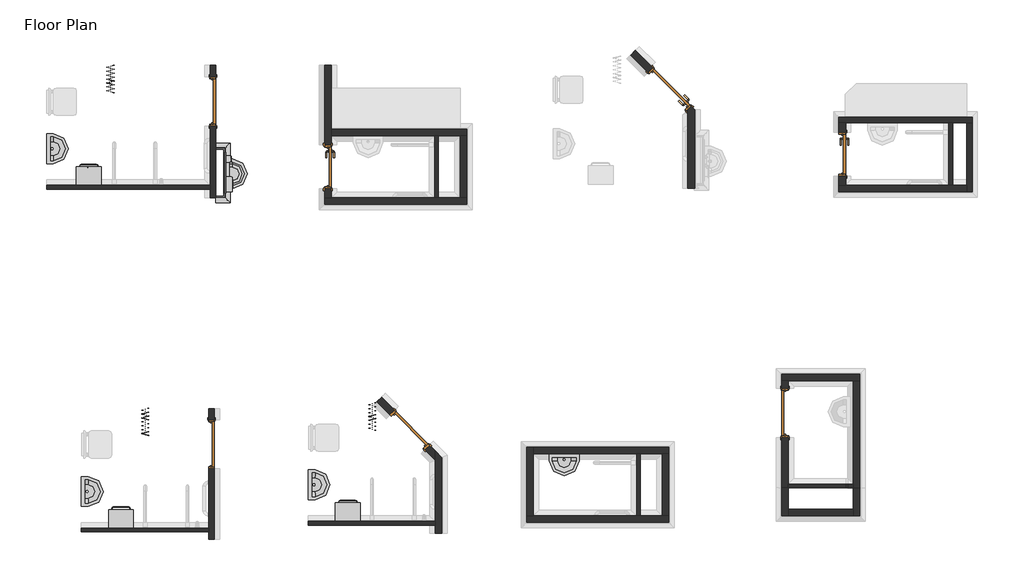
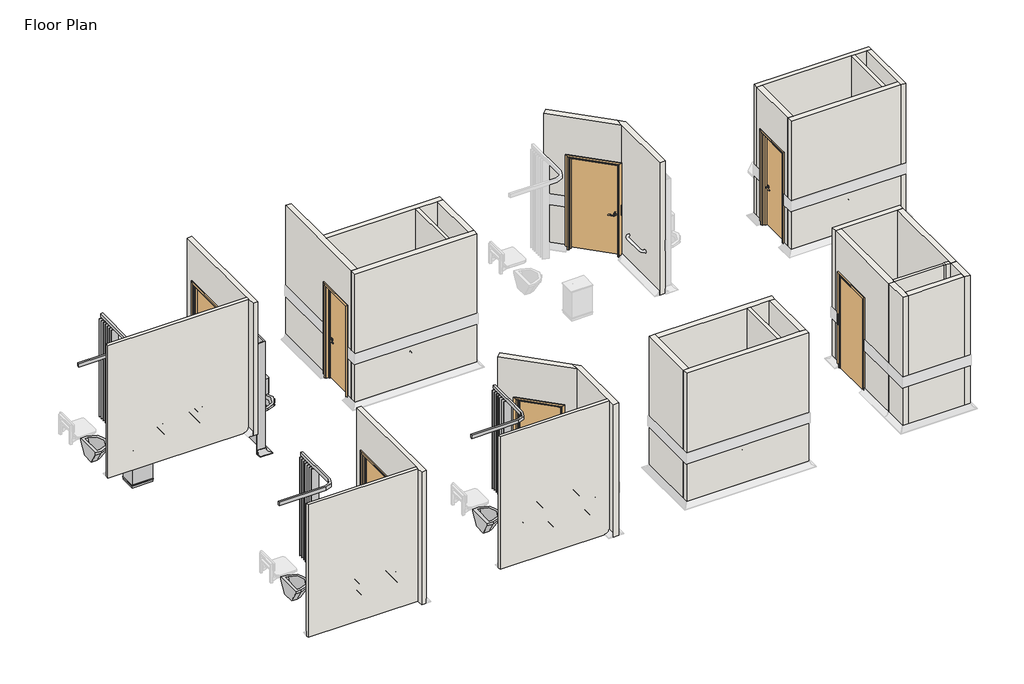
# One storey, part 1 of 4: 33 walls, 9 furniture elements, 7 doors, 6 flow terminals.
"""IFC4 building model written with IfcOpenShell, lengths in millimetres."""

from ifc_helpers import new_model, si_unit, origin, place, context, project, spatial, faceted_brep, transform, mapped, element, save
from components import doors_concept_intsgl_910x2110mm_f82baad5, doors_concept_intsgl_910x2110mm_32050250, doors_concept_intsgl_910x2110mm_9e80112f, doors_intsgl_1_1010x2110mm_0e4fc7ca, doors_intsgl_1_810x2110mm_42a51698, flow_terminal_1693ed64, flow_terminal_004a381b, flow_terminal_30861e1c, furniture_166ce8d1, furniture_26d36cfe, furniture_c6a9ce10, furniture_a9c8da33, furniture_eb258ce7

model = new_model("IFC4")

# Units and contexts
model_context = context("Model", 3, world=origin())
ifc_project = project(units=[si_unit("LENGTHUNIT", "METRE", prefix="MILLI")], contexts=[model_context])

# Site, building, storey
site = spatial("IfcSite", under=ifc_project)
building = spatial("IfcBuilding", under=site)
storey = spatial("IfcBuildingStorey", under=building, Name="Floor Plan", Elevation=0.0)

# Doors
placement = place(None, origin())
doors_concept_intsgl_910x2110mm_shape = doors_concept_intsgl_910x2110mm_f82baad5(model_context)
element("IfcDoor", 1, ObjectType="Doors_Concept_IntSgl : 910x2110mm", at=placement, inside=storey, context=model_context, shape_type="MappedRepresentation", body=[
    mapped(doors_concept_intsgl_910x2110mm_shape, transform((41275.3426729, -16264.8718225, 0.0), x_axis=(0.0, 1.0, 0.0), y_axis=(-1.0, 0.0, 0.0), z_axis=(0.0, 0.0, 1.0))),
])
element("IfcDoor", 2, ObjectType="Doors_Concept_IntSgl : 910x2110mm", at=placement, inside=storey, context=model_context, shape_type="MappedRepresentation", body=[
    mapped(doors_concept_intsgl_910x2110mm_shape, transform((41296.4211783, -9951.8684808, 0.0), x_axis=(0.0, 1.0, 0.0), y_axis=(-1.0, 0.0, 0.0), z_axis=(0.0, 0.0, 1.0))),
])
doors_concept_intsgl_910x2110mm_2_shape = doors_concept_intsgl_910x2110mm_32050250(model_context)
element("IfcDoor", 3, ObjectType="Doors_Concept_IntSgl : 910x2110mm", at=placement, inside=storey, context=model_context, shape_type="MappedRepresentation", body=[
    mapped(doors_concept_intsgl_910x2110mm_2_shape, transform((51833.4278474, -15688.6150189, 0.0), x_axis=(0.0, 1.0, 0.0), y_axis=(-1.0, 0.0, 0.0), z_axis=(0.0, 0.0, 1.0))),
])
doors_concept_intsgl_910x2110mm_3_shape = doors_concept_intsgl_910x2110mm_9e80112f(model_context)
element("IfcDoor", 4, ObjectType="Doors_Concept_IntSgl : 910x2110mm", at=placement, inside=storey, context=model_context, shape_type="MappedRepresentation", body=[
    mapped(doors_concept_intsgl_910x2110mm_3_shape, transform((44922.5727366, -16003.5844721, 0.0), x_axis=(-0.7071067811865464, 0.7071067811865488, 0.0), y_axis=(-0.7071067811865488, -0.7071067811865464, 0.0), z_axis=(0.0, 0.0, 1.0))),
])
doors_intsgl_1_1010x2110mm_shape = doors_intsgl_1_1010x2110mm_0e4fc7ca(model_context)
element("IfcDoor", 5, ObjectType="Doors_IntSgl_1 : 1010x2110mm", at=placement, inside=storey, context=model_context, shape_type="MappedRepresentation", body=[
    mapped(doors_intsgl_1_1010x2110mm_shape, transform((49710.3774664, -9727.4978763, 0.0), x_axis=(-0.7071067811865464, 0.7071067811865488, 0.0), y_axis=(-0.7071067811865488, -0.7071067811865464, 0.0), z_axis=(0.0, 0.0, 1.0))),
])
doors_intsgl_1_810x2110mm_shape = doors_intsgl_1_810x2110mm_42a51698(model_context)
element("IfcDoor", 6, ObjectType="Doors_IntSgl_1 : 810x2110mm", at=placement, inside=storey, context=model_context, shape_type="MappedRepresentation", body=[
    mapped(doors_intsgl_1_810x2110mm_shape, transform((43414.71766, -11156.4934808, 0.0), x_axis=(0.0, -1.0, 0.0), y_axis=(1.0, 0.0, 0.0), z_axis=(0.0, 0.0, 1.0))),
])
element("IfcDoor", 7, ObjectType="Doors_IntSgl_1 : 810x2110mm", at=placement, inside=storey, context=model_context, shape_type="MappedRepresentation", body=[
    mapped(doors_intsgl_1_810x2110mm_shape, transform((52889.0445525, -10922.9934808, 0.0), x_axis=(0.0, -1.0, 0.0), y_axis=(1.0, 0.0, 0.0), z_axis=(0.0, 0.0, 1.0))),
])

# Flow terminals
flow_terminal_shape = flow_terminal_1693ed64(model_context)
element("IfcFlowTerminal", 8, ObjectType="BHMS_wash basin-LOD01 : BHMS_wash basin-LOD01", at=placement, inside=storey, context=model_context, shape_type="MappedRepresentation", body=[
    mapped(flow_terminal_shape, transform((41532.4211783, -11566.1184808, 237.6002267), x_axis=(0.0, 1.0, 0.0), y_axis=(-1.0, 0.0, 0.0), z_axis=(0.0, 0.0, 1.0))),
])
flow_terminal_2_shape = flow_terminal_004a381b(model_context)
element("IfcFlowTerminal", 9, ObjectType="BIMHealth-Taps_IPS-LOD2A-v1 : BIMHealth-Taps_IPS-LOD2A-v1", at=placement, inside=storey, context=model_context, shape_type="MappedRepresentation", body=[
    mapped(flow_terminal_2_shape, transform((41597.3640242, -11160.5182464, -462.3997733), x_axis=(0.0, -1.0, 0.0), y_axis=(1.0, 0.0, 0.0), z_axis=(0.0, 0.0, 1.0))),
])
flow_terminal_3_shape = flow_terminal_30861e1c(model_context)
element("IfcFlowTerminal", 10, ObjectType="BIMHealth-Wash_basin_Doc_M-LOD2A-v1 : BIMHealth-Wash_basin_Doc_M-LOD2A-v1", at=placement, inside=storey, context=model_context, shape_type="MappedRepresentation", body=[
    mapped(flow_terminal_3_shape, transform((43053.6832264, -17285.4449619, 450.0), x_axis=(0.0, 1.0, 0.0), y_axis=(-1.0, 0.0, 0.0), z_axis=(0.0, 0.0, 1.0))),
])
element("IfcFlowTerminal", 11, ObjectType="BIMHealth-Wash_basin_Doc_M-LOD2A-v1 : BIMHealth-Wash_basin_Doc_M-LOD2A-v1", at=placement, inside=storey, context=model_context, shape_type="MappedRepresentation", body=[
    mapped(flow_terminal_3_shape, transform((38875.3426729, -17409.8718225, 450.0), x_axis=(0.0, 1.0, 0.0), y_axis=(-1.0, 0.0, 0.0), z_axis=(0.0, 0.0, 1.0))),
])
element("IfcFlowTerminal", 12, ObjectType="BIMHealth-Wash_basin_Doc_M-LOD2A-v1 : BIMHealth-Wash_basin_Doc_M-LOD2A-v1", at=placement, inside=storey, context=model_context, shape_type="MappedRepresentation", body=[
    mapped(flow_terminal_3_shape, transform((47492.8138428, -16442.8650189, 450.0), x_axis=(1.0, 0.0, 0.0), y_axis=(0.0, 1.0, 0.0), z_axis=(0.0, 0.0, 1.0))),
])
element("IfcFlowTerminal", 13, ObjectType="BIMHealth-Wash_basin_Doc_M-LOD2A-v1 : BIMHealth-Wash_basin_Doc_M-LOD2A-v1", at=placement, inside=storey, context=model_context, shape_type="MappedRepresentation", body=[
    mapped(flow_terminal_3_shape, transform((38233.9211783, -11096.8684808, -12.3997733), x_axis=(0.0, 1.0, 0.0), y_axis=(-1.0, 0.0, 0.0), z_axis=(0.0, 0.0, 1.0))),
])

# Furniture
furniture_shape = furniture_166ce8d1(model_context)
element("IfcFurniture", 14, ObjectType="BIMHealth-Paper_Towel_Dispenser-LOD2A-v1 : BIMHealth-Paper_Towel_Dispenser-LOD2A-v1", at=placement, inside=storey, context=model_context, shape_type="MappedRepresentation", body=[
    mapped(furniture_shape, transform((41532.4211783, -11617.0382414, -442.3997733), x_axis=(0.0, 1.0, 0.0), y_axis=(-1.0, 0.0, 0.0), z_axis=(0.0, 0.0, 1.0))),
])
furniture_2_shape = furniture_26d36cfe(model_context)
element("IfcFurniture", 15, ObjectType="BIMHealth-Soap_Dispenser-LOD2A-v1 : BIMHealth-Soap_Dispenser-LOD2A-v1", at=placement, inside=storey, context=model_context, shape_type="MappedRepresentation", body=[
    mapped(furniture_2_shape, transform((41532.4211783, -11069.0792802, -312.3997733), x_axis=(0.0, 1.0, 0.0), y_axis=(-1.0, 0.0, 0.0), z_axis=(0.0, 0.0, 1.0))),
])
furniture_3_shape = furniture_c6a9ce10(model_context)
element("IfcFurniture", 16, ObjectType="BIMHealth-Bin_Clinical_Foot_Operated-LOD2A-v1 : BIMHealth-Bin_Clinical_Foot_Operated-LOD2A-v1", at=placement, inside=storey, context=model_context, shape_type="MappedRepresentation", body=[
    mapped(furniture_3_shape, transform((44003.6832264, -17675.4449619, 0.0), x_axis=(-1.0, 0.0, 0.0), y_axis=(0.0, -1.0, 0.0), z_axis=(0.0, 0.0, 1.0))),
])
element("IfcFurniture", 17, ObjectType="BIMHealth-Bin_Clinical_Foot_Operated-LOD2A-v1 : BIMHealth-Bin_Clinical_Foot_Operated-LOD2A-v1", at=placement, inside=storey, context=model_context, shape_type="MappedRepresentation", body=[
    mapped(furniture_3_shape, transform((39825.3426729, -17799.8718225, 0.0), x_axis=(-1.0, 0.0, 0.0), y_axis=(0.0, -1.0, 0.0), z_axis=(0.0, 0.0, 1.0))),
])
element("IfcFurniture", 18, ObjectType="BIMHealth-Bin_Clinical_Foot_Operated-LOD2A-v1 : BIMHealth-Bin_Clinical_Foot_Operated-LOD2A-v1", at=placement, inside=storey, context=model_context, shape_type="MappedRepresentation", body=[
    mapped(furniture_3_shape, transform((39233.9211783, -11486.8684808, -462.3997733), x_axis=(-1.0, 0.0, 0.0), y_axis=(0.0, -1.0, 0.0), z_axis=(0.0, 0.0, 1.0))),
])
furniture_4_shape = furniture_a9c8da33(model_context)
element("IfcFurniture", 19, ObjectType="BIMHealth-Curtain_Doc_M-LOD2A-v1 : BIMHealth-Curtain_Doc_M-LOD2A-v1", at=placement, inside=storey, context=model_context, shape_type="MappedRepresentation", body=[
    mapped(furniture_4_shape, transform((44253.6832264, -15501.9449619, 0.0), x_axis=(0.0, -1.0, 0.0), y_axis=(1.0, 0.0, 0.0), z_axis=(0.0, 0.0, 1.0))),
])
element("IfcFurniture", 20, ObjectType="BIMHealth-Curtain_Doc_M-LOD2A-v1 : BIMHealth-Curtain_Doc_M-LOD2A-v1", at=placement, inside=storey, context=model_context, shape_type="MappedRepresentation", body=[
    mapped(furniture_4_shape, transform((40075.3426729, -15599.8718225, 0.0), x_axis=(0.0, -1.0, 0.0), y_axis=(1.0, 0.0, 0.0), z_axis=(0.0, 0.0, 1.0))),
])
element("IfcFurniture", 21, ObjectType="BIMHealth-Curtain_Doc_M-LOD2A-v1 : BIMHealth-Curtain_Doc_M-LOD2A-v1", at=placement, inside=storey, context=model_context, shape_type="MappedRepresentation", body=[
    mapped(furniture_4_shape, transform((39433.9211783, -9286.8684808, -462.3997733), x_axis=(0.0, -1.0, 0.0), y_axis=(1.0, 0.0, 0.0), z_axis=(0.0, 0.0, 1.0))),
])
furniture_5_shape = furniture_eb258ce7(model_context)
element("IfcFurniture", 22, ObjectType="BIMHealth-Washstation-LOD2A-v2 : BIMHealth-Washstation-LOD2A-v1 2", at=placement, inside=storey, context=model_context, shape_type="MappedRepresentation", body=[
    mapped(furniture_5_shape, transform((41346.4211783, -10816.1184808, -462.3997733), x_axis=(0.0, 1.0, 0.0), y_axis=(-1.0, 0.0, 0.0), z_axis=(0.0, 0.0, 1.0))),
])

# Walls
element("IfcWall", 23, ObjectType="BHMS05-FR30_ Partn70 plastic int-vnyl sktg-1 bmp rail", at=placement, inside=storey, context=model_context, shape_type="Brep", body=[
    faceted_brep([(51772.6778474, -17067.8650189, 3000.0), (51772.6778474, -15093.6150189, 3000.0), (51772.6778474, -15093.6150189, 1200.0), (51772.6778474, -15093.6150189, 965.0), (51772.6778474, -15093.6150189, 100.0), (51772.6778474, -15093.6150189, 0.0), (51772.6778474, -15233.6150189, 0.0), (51772.6778474, -15233.6150189, 100.0), (51772.6778474, -15233.6150189, 965.0), (51772.6778474, -15233.6150189, 1200.0), (51772.6778474, -15233.6150189, 2110.0), (51772.6778474, -16143.6150189, 2110.0), (51772.6778474, -16143.6150189, 1200.0), (51772.6778474, -16143.6150189, 965.0), (51772.6778474, -16143.6150189, 100.0), (51772.6778474, -16143.6150189, 0.0), (51772.6778474, -17067.8650189, 0.0), (51772.6778474, -17067.8650189, 100.0), (51772.6778474, -17067.8650189, 965.0), (51772.6778474, -17067.8650189, 1200.0), (51894.1778474, -17067.8650189, 3000.0), (51894.1778474, -17067.8650189, 100.0), (51894.1778474, -17067.8650189, 0.0), (51894.1778474, -17067.1150189, 0.0), (51894.1778474, -16998.6150189, 0.0), (51894.1778474, -16143.6150189, 0.0), (51894.1778474, -16143.6150189, 100.0), (51894.1778474, -16143.6150189, 2110.0), (51894.1778474, -15233.6150189, 2110.0), (51894.1778474, -15233.6150189, 100.0), (51894.1778474, -15233.6150189, 0.0), (51894.1778474, -15093.6150189, 0.0), (51894.1778474, -15093.6150189, 3000.0), (51894.1778474, -16998.6150189, 3000.0), (51894.1778474, -17067.1150189, 3000.0)], [[[0, 1, 2, 3, 4, 5, 6, 7, 8, 9, 10, 11, 12, 13, 14, 15, 16, 17, 18, 19]], [[20, 21, 22, 23, 24, 25, 26, 27, 28, 29, 30, 31, 32, 33, 34]], [[6, 5, 31, 30]], [[22, 16, 15, 25, 24, 23]], [[22, 21, 20, 0, 19, 18, 17, 16]], [[1, 0, 20, 34, 33, 32]], [[28, 10, 9, 8, 7, 6, 30, 29]], [[10, 28, 27, 11]], [[11, 27, 26, 25, 15, 14, 13, 12]], [[1, 32, 31, 5, 4, 3, 2]]]),
])
element("IfcWall", 24, ObjectType="BHMS05-FR30_ Partn70 plastic int-vnyl sktg-1 bmp rail", at=placement, inside=storey, context=model_context, shape_type="Brep", body=[
    faceted_brep([(51772.6778474, -15093.6150189, 0.0), (51894.1778474, -15093.6150189, 0.0), (53094.1778474, -15093.6150189, 0.0), (53215.6778474, -15093.6150189, 0.0), (53215.6778474, -15093.6150189, 100.0), (53215.6778474, -15093.6150189, 965.0), (53215.6778474, -15093.6150189, 1200.0), (53215.6778474, -15093.6150189, 3000.0), (53094.1778474, -15093.6150189, 3000.0), (51894.1778474, -15093.6150189, 3000.0), (51772.6778474, -15093.6150189, 3000.0), (51772.6778474, -15093.6150189, 1200.0), (51772.6778474, -15093.6150189, 965.0), (51772.6778474, -15093.6150189, 100.0), (53215.6778474, -14972.1150189, 0.0), (51772.6778474, -14972.1150189, 0.0), (51772.6778474, -14972.1150189, 100.0), (51772.6778474, -14972.1150189, 965.0), (51772.6778474, -14972.1150189, 1200.0), (51772.6778474, -14972.1150189, 3000.0), (53215.6778474, -14972.1150189, 3000.0), (53215.6778474, -14972.1150189, 1200.0), (53215.6778474, -14972.1150189, 965.0), (53215.6778474, -14972.1150189, 100.0)], [[[0, 1, 2, 3, 4, 5, 6, 7, 8, 9, 10, 11, 12, 13]], [[14, 15, 16, 17, 18, 19, 20, 21, 22, 23]], [[3, 2, 1, 0, 15, 14]], [[10, 9, 8, 7, 20, 19]], [[3, 14, 23, 22, 21, 20, 7, 6, 5, 4]], [[10, 19, 18, 17, 16, 15, 0, 13, 12, 11]]]),
])
element("IfcWall", 25, ObjectType="BHMS02A- Partn50-vinyl sktg1 side", at=placement, inside=storey, context=model_context, shape_type="Brep", body=[
    faceted_brep([(53094.1778474, -16998.6150189, 0.0), (52993.4278474, -16998.6150189, 0.0), (52993.4278474, -16998.6150189, 100.0), (52993.4278474, -16998.6150189, 3000.0), (53094.1778474, -16998.6150189, 3000.0), (53094.1778474, -16998.6150189, 100.0), (53094.1778474, -17067.1150189, 0.0), (53094.1778474, -17067.1150189, 3000.0), (52993.4278474, -17067.1150189, 3000.0), (52993.4278474, -17067.1150189, 0.0)], [[[0, 1, 2, 3, 4, 5]], [[6, 7, 8, 9]], [[1, 0, 6, 9]], [[3, 2, 1, 9, 8]], [[4, 3, 8, 7]], [[0, 5, 4, 7, 6]]]),
])
element("IfcWall", 26, ObjectType="BHMS05-FR30_ Partn70 plastic-ext vnyl sktg-1 bmp rail", at=placement, inside=storey, context=model_context, shape_type="Brep", body=[
    faceted_brep([(53215.6778474, -17582.1150189, 0.0), (53215.6778474, -17073.6150189, 0.0), (53215.6778474, -17073.6150189, 100.0), (53215.6778474, -17073.6150189, 965.0), (53215.6778474, -17073.6150189, 1200.0), (53215.6778474, -17073.6150189, 3000.0), (53215.6778474, -17582.1150189, 3000.0), (53215.6778474, -17582.1150189, 1200.0), (53215.6778474, -17582.1150189, 965.0), (53215.6778474, -17582.1150189, 100.0), (53094.1778474, -17073.6150189, 0.0), (53094.1778474, -17460.6150189, 0.0), (53094.1778474, -17582.1150189, 0.0), (53094.1778474, -17582.1150189, 100.0), (53094.1778474, -17582.1150189, 965.0), (53094.1778474, -17582.1150189, 1200.0), (53094.1778474, -17582.1150189, 3000.0), (53094.1778474, -17460.6150189, 3000.0), (53094.1778474, -17073.6150189, 3000.0)], [[[0, 1, 2, 3, 4, 5, 6, 7, 8, 9]], [[10, 11, 12, 13, 14, 15, 16, 17, 18]], [[1, 0, 12, 11, 10]], [[10, 18, 5, 4, 3, 2, 1]], [[6, 5, 18, 17, 16]], [[6, 16, 15, 14, 13, 12, 0, 9, 8, 7]]]),
])
element("IfcWall", 27, ObjectType="BHMS05-FR30_ Partn70 plastic-ext vnyl sktg-1 bmp rail", at=placement, inside=storey, context=model_context, shape_type="Brep", body=[
    faceted_brep([(53094.1778474, -17460.6150189, 0.0), (51894.1778474, -17460.6150189, 0.0), (51894.1778474, -17460.6150189, 3000.0), (53094.1778474, -17460.6150189, 3000.0), (51894.1778474, -17582.1150189, 0.0), (53094.1778474, -17582.1150189, 0.0), (53094.1778474, -17582.1150189, 100.0), (53094.1778474, -17582.1150189, 965.0), (53094.1778474, -17582.1150189, 1200.0), (53094.1778474, -17582.1150189, 3000.0), (51894.1778474, -17582.1150189, 3000.0), (51894.1778474, -17582.1150189, 1200.0), (51894.1778474, -17582.1150189, 965.0), (51894.1778474, -17582.1150189, 100.0)], [[[0, 1, 2, 3]], [[4, 5, 6, 7, 8, 9, 10, 11, 12, 13]], [[1, 0, 5, 4]], [[3, 2, 10, 9]], [[0, 3, 9, 8, 7, 6, 5]], [[2, 1, 4, 13, 12, 11, 10]]]),
])
element("IfcWall", 28, ObjectType="BHMS05-FR30_ Partn70 plastic-ext vnyl sktg-1 bmp rail", at=placement, inside=storey, context=model_context, shape_type="Brep", body=[
    faceted_brep([(51772.6778474, -17067.8650189, 0.0), (51772.6778474, -17582.1150189, 0.0), (51772.6778474, -17582.1150189, 100.0), (51772.6778474, -17582.1150189, 965.0), (51772.6778474, -17582.1150189, 1200.0), (51772.6778474, -17582.1150189, 3000.0), (51772.6778474, -17067.8650189, 3000.0), (51772.6778474, -17067.8650189, 1200.0), (51772.6778474, -17067.8650189, 965.0), (51772.6778474, -17067.8650189, 100.0), (51894.1778474, -17582.1150189, 0.0), (51894.1778474, -17460.6150189, 0.0), (51894.1778474, -17067.8650189, 0.0), (51894.1778474, -17067.8650189, 3000.0), (51894.1778474, -17460.6150189, 3000.0), (51894.1778474, -17582.1150189, 3000.0), (51894.1778474, -17582.1150189, 1200.0), (51894.1778474, -17582.1150189, 965.0), (51894.1778474, -17582.1150189, 100.0)], [[[0, 1, 2, 3, 4, 5, 6, 7, 8, 9]], [[10, 11, 12, 13, 14, 15, 16, 17, 18]], [[1, 0, 12, 11, 10]], [[6, 5, 15, 14, 13]], [[13, 12, 0, 9, 8, 7, 6]], [[1, 10, 18, 17, 16, 15, 5, 4, 3, 2]]]),
])
element("IfcWall", 29, ObjectType="BHMS02A- Partn50-vinyl sktg1 side", at=placement, inside=storey, context=model_context, shape_type="Brep", body=[
    faceted_brep([(52953.4278474, -16998.6150189, 0.0), (51894.1778474, -16998.6150189, 0.0), (51894.1778474, -16998.6150189, 100.0), (51894.1778474, -16998.6150189, 3000.0), (52953.4278474, -16998.6150189, 3000.0), (52953.4278474, -16998.6150189, 100.0), (52953.4278474, -17067.1150189, 0.0), (52953.4278474, -17067.1150189, 3000.0), (51894.1778474, -17067.1150189, 3000.0), (51894.1778474, -17067.1150189, 0.0)], [[[0, 1, 2, 3, 4, 5]], [[6, 7, 8, 9]], [[1, 0, 6, 9]], [[4, 3, 8, 7]], [[0, 5, 4, 7, 6]], [[3, 2, 1, 9, 8]]]),
])
element("IfcWall", 30, ObjectType="BHMS02A- Partn50-vinyl sktg1 side", at=placement, inside=storey, context=model_context, shape_type="Brep", body=[
    faceted_brep([(52993.4278474, -16998.6150189, 0.0), (52953.4278474, -16998.6150189, 0.0), (52953.4278474, -16998.6150189, 100.0), (52953.4278474, -16998.6150189, 3000.0), (52993.4278474, -16998.6150189, 3000.0), (52993.4278474, -16998.6150189, 100.0), (52993.4278474, -17067.1150189, 0.0), (52993.4278474, -17067.1150189, 3000.0), (52953.4278474, -17067.1150189, 3000.0), (52953.4278474, -17067.1150189, 0.0)], [[[0, 1, 2, 3, 4, 5]], [[6, 7, 8, 9]], [[1, 0, 6, 9]], [[3, 2, 1, 9, 8]], [[4, 3, 8, 7]], [[0, 5, 4, 7, 6]]]),
])
element("IfcWall", 31, ObjectType="BHMS05-FR30_ Partn70 plastic int-vnyl sktg-1 bmp rail", at=placement, inside=storey, context=model_context, shape_type="Brep", body=[
    faceted_brep([(53215.6778474, -17073.6150189, 0.0), (53215.6778474, -15093.6150189, 0.0), (53215.6778474, -15093.6150189, 100.0), (53215.6778474, -15093.6150189, 965.0), (53215.6778474, -15093.6150189, 1200.0), (53215.6778474, -15093.6150189, 3000.0), (53215.6778474, -17073.6150189, 3000.0), (53215.6778474, -17073.6150189, 1200.0), (53215.6778474, -17073.6150189, 965.0), (53215.6778474, -17073.6150189, 100.0), (53094.1778474, -15093.6150189, 0.0), (53094.1778474, -16998.6150189, 0.0), (53094.1778474, -17067.1150189, 0.0), (53094.1778474, -17073.6150189, 0.0), (53094.1778474, -17073.6150189, 100.0), (53094.1778474, -17073.6150189, 3000.0), (53094.1778474, -17067.1150189, 3000.0), (53094.1778474, -16998.6150189, 3000.0), (53094.1778474, -15093.6150189, 3000.0)], [[[0, 1, 2, 3, 4, 5, 6, 7, 8, 9]], [[10, 11, 12, 13, 14, 15, 16, 17, 18]], [[1, 0, 13, 12, 11, 10]], [[6, 5, 18, 17, 16, 15]], [[15, 14, 13, 0, 9, 8, 7, 6]], [[1, 10, 18, 5, 4, 3, 2]]]),
])
element("IfcWall", 32, ObjectType="BHMS05-FR30_ Partn70 plastic int-vnyl sktg-1 bmp rail", at=placement, inside=storey, context=model_context, shape_type="Brep", body=[
    faceted_brep([(50047.4980708, -11553.3684808, 0.0), (50047.4980708, -11553.3684808, 100.0), (50047.4980708, -11553.3684808, 3000.0), (50047.4980708, -10150.5319547, 3000.0), (50047.4980708, -9978.7050069, 3000.0), (50047.4980708, -9978.7050069, 2110.0), (50047.4980708, -10104.5551208, 2110.0), (50047.4980708, -10104.5551208, 0.0), (50047.4980708, -10150.5319547, 0.0), (50168.9980708, -11553.3684808, 0.0), (50168.9980708, -10100.2050069, 0.0), (50168.9980708, -10100.2050069, 3000.0), (50168.9980708, -11553.3684808, 3000.0), (50168.9980708, -11553.3684808, 1200.0), (50168.9980708, -11553.3684808, 965.0), (50168.9980708, -11553.3684808, 100.0), (50110.4231278, -10041.6300638, 0.0), (50110.4231278, -10041.6300638, 2110.0)], [[[0, 1, 2, 3, 4, 5, 6, 7, 8]], [[9, 10, 11, 12, 13, 14, 15]], [[10, 9, 0, 8, 7, 16]], [[2, 1, 0, 9, 15, 14, 13, 12]], [[4, 3, 2, 12, 11]], [[4, 11, 10, 16, 17, 5]], [[17, 6, 5]], [[6, 17, 16, 7]]]),
])
element("IfcWall", 33, ObjectType="BHMS05-FR30_ Partn70 plastic int-vnyl sktg-1 bmp rail", at=placement, inside=storey, context=model_context, shape_type="Brep", body=[
    faceted_brep([(49079.2048078, -9010.4117438, 3000.0), (50047.4980708, -9978.7050069, 3000.0), (50047.4980708, -9978.7050069, 2110.0), (49396.2452788, -9327.4522148, 2110.0), (49396.2452788, -9327.4522148, 0.0), (49371.4965415, -9302.7034775, 0.0), (49079.2048078, -9010.4117438, 0.0), (49079.2048078, -9010.4117438, 100.0), (50047.4980708, -10150.5319547, 3000.0), (48993.2913339, -9096.3252177, 3000.0), (48993.2913339, -9096.3252177, 1200.0), (48993.2913339, -9096.3252177, 965.0), (48993.2913339, -9096.3252177, 100.0), (48993.2913339, -9096.3252177, 0.0), (49310.3318049, -9413.3656888, 0.0), (49310.3318049, -9413.3656888, 100.0), (49310.3318049, -9413.3656888, 965.0), (49310.3318049, -9413.3656888, 1200.0), (49310.3318049, -9413.3656888, 2110.0), (50024.5096539, -10127.5435378, 2110.0), (50024.5096539, -10127.5435378, 1200.0), (50024.5096539, -10127.5435378, 965.0), (50024.5096539, -10127.5435378, 100.0), (50024.5096539, -10127.5435378, 0.0), (50047.4980708, -10150.5319547, 0.0), (50047.4980708, -10150.5319547, 965.0), (50047.4980708, -10150.5319547, 1200.0), (50047.4980708, -10104.5551208, 0.0), (50047.4980708, -10104.5551208, 2110.0)], [[[0, 1, 2, 3, 4, 5, 6, 7]], [[8, 9, 10, 11, 12, 13, 14, 15, 16, 17, 18, 19, 20, 21, 22, 23, 24, 25, 26]], [[13, 6, 5, 4, 14]], [[23, 27, 24]], [[6, 13, 12, 11, 10, 9, 0, 7]], [[1, 0, 9, 8]], [[4, 3, 18, 17, 16, 15, 14]], [[28, 19, 18, 3, 2]], [[19, 28, 27, 23, 22, 21, 20]], [[1, 8, 26, 25, 24, 27, 28, 2]]]),
])
element("IfcWall", 34, ObjectType="BHMS05-FR30_ Partn70 plastic int-vnyl sktg-1 bmp rail", at=placement, inside=storey, context=model_context, shape_type="Brep", body=[
    faceted_brep([(43353.96766, -11847.6184808, 0.0), (45970.46766, -11847.6184808, 0.0), (45970.46766, -11847.6184808, 100.0), (45970.46766, -11847.6184808, 965.0), (45970.46766, -11847.6184808, 1200.0), (45970.46766, -11847.6184808, 3000.0), (43353.96766, -11847.6184808, 3000.0), (43353.96766, -11847.6184808, 1200.0), (43353.96766, -11847.6184808, 965.0), (43353.96766, -11847.6184808, 100.0), (45970.46766, -11726.1184808, 0.0), (45848.96766, -11726.1184808, 0.0), (45448.96766, -11726.1184808, 0.0), (45380.46766, -11726.1184808, 0.0), (43475.46766, -11726.1184808, 0.0), (43353.96766, -11726.1184808, 0.0), (43353.96766, -11726.1184808, 100.0), (43353.96766, -11726.1184808, 965.0), (43353.96766, -11726.1184808, 1200.0), (43353.96766, -11726.1184808, 3000.0), (43475.46766, -11726.1184808, 3000.0), (45380.46766, -11726.1184808, 3000.0), (45448.96766, -11726.1184808, 3000.0), (45848.96766, -11726.1184808, 3000.0), (45970.46766, -11726.1184808, 3000.0), (45970.46766, -11726.1184808, 1200.0), (45970.46766, -11726.1184808, 965.0), (45970.46766, -11726.1184808, 100.0)], [[[0, 1, 2, 3, 4, 5, 6, 7, 8, 9]], [[10, 11, 12, 13, 14, 15, 16, 17, 18, 19, 20, 21, 22, 23, 24, 25, 26, 27]], [[1, 0, 15, 14, 13, 12, 11, 10]], [[6, 5, 24, 23, 22, 21, 20, 19]], [[6, 19, 18, 17, 16, 15, 0, 9, 8, 7]], [[1, 10, 27, 26, 25, 24, 5, 4, 3, 2]]]),
])
element("IfcWall", 35, ObjectType="BHMS05-FR30_ Partn70 plastic int-vnyl sktg-1 bmp rail", at=placement, inside=storey, context=model_context, shape_type="Brep", body=[
    faceted_brep([(43475.46766, -9286.8684808, 0.0), (43475.46766, -9286.8684808, 100.0), (43475.46766, -9286.8684808, 3000.0), (43475.46766, -10465.3684808, 3000.0), (43475.46766, -10586.8684808, 3000.0), (43475.46766, -11726.1184808, 3000.0), (43475.46766, -11726.1184808, 0.0), (43475.46766, -11561.4934808, 0.0), (43475.46766, -11561.4934808, 100.0), (43475.46766, -11561.4934808, 2110.0), (43475.46766, -10751.4934808, 2110.0), (43475.46766, -10751.4934808, 100.0), (43475.46766, -10751.4934808, 0.0), (43475.46766, -10586.8684808, 0.0), (43475.46766, -10465.3684808, 0.0), (43353.96766, -11726.1184808, 3000.0), (43353.96766, -9286.8684808, 3000.0), (43353.96766, -9286.8684808, 1200.0), (43353.96766, -9286.8684808, 965.0), (43353.96766, -9286.8684808, 100.0), (43353.96766, -9286.8684808, 0.0), (43353.96766, -10751.4934808, 0.0), (43353.96766, -10751.4934808, 100.0), (43353.96766, -10751.4934808, 965.0), (43353.96766, -10751.4934808, 1200.0), (43353.96766, -10751.4934808, 2110.0), (43353.96766, -11561.4934808, 2110.0), (43353.96766, -11561.4934808, 1200.0), (43353.96766, -11561.4934808, 965.0), (43353.96766, -11561.4934808, 100.0), (43353.96766, -11561.4934808, 0.0), (43353.96766, -11726.1184808, 0.0), (43353.96766, -11726.1184808, 100.0), (43353.96766, -11726.1184808, 965.0), (43353.96766, -11726.1184808, 1200.0)], [[[0, 1, 2, 3, 4, 5, 6, 7, 8, 9, 10, 11, 12, 13, 14]], [[15, 16, 17, 18, 19, 20, 21, 22, 23, 24, 25, 26, 27, 28, 29, 30, 31, 32, 33, 34]], [[20, 0, 14, 13, 12, 21]], [[6, 31, 30, 7]], [[2, 1, 0, 20, 19, 18, 17, 16]], [[5, 4, 3, 2, 16, 15]], [[6, 5, 15, 34, 33, 32, 31]], [[9, 8, 7, 30, 29, 28, 27, 26]], [[10, 9, 26, 25]], [[12, 11, 10, 25, 24, 23, 22, 21]]]),
])
element("IfcWall", 36, ObjectType="BHMS02A- Partn50-vinyl sktg1 side", at=placement, inside=storey, context=model_context, shape_type="Brep", body=[
    faceted_brep([(45380.46766, -10586.8684808, 0.0), (45380.46766, -11726.1184808, 0.0), (45380.46766, -11726.1184808, 100.0), (45380.46766, -11726.1184808, 3000.0), (45380.46766, -10586.8684808, 3000.0), (45380.46766, -10586.8684808, 100.0), (45448.96766, -10586.8684808, 0.0), (45448.96766, -10586.8684808, 3000.0), (45448.96766, -11726.1184808, 3000.0), (45448.96766, -11726.1184808, 0.0)], [[[0, 1, 2, 3, 4, 5]], [[6, 7, 8, 9]], [[1, 0, 6, 9]], [[4, 3, 8, 7]], [[0, 5, 4, 7, 6]], [[3, 2, 1, 9, 8]]]),
])
element("IfcWall", 37, ObjectType="BHMS05-FR30_ Partn70 plastic int-vnyl sktg-1 bmp rail", at=placement, inside=storey, context=model_context, shape_type="Brep", body=[
    faceted_brep([(45970.46766, -10465.3684808, 0.0), (43475.46766, -10465.3684808, 0.0), (43475.46766, -10465.3684808, 100.0), (43475.46766, -10465.3684808, 965.0), (43475.46766, -10465.3684808, 1200.0), (43475.46766, -10465.3684808, 3000.0), (45970.46766, -10465.3684808, 3000.0), (45970.46766, -10465.3684808, 1200.0), (45970.46766, -10465.3684808, 965.0), (45970.46766, -10465.3684808, 100.0), (43475.46766, -10586.8684808, 0.0), (45380.46766, -10586.8684808, 0.0), (45448.96766, -10586.8684808, 0.0), (45848.96766, -10586.8684808, 0.0), (45970.46766, -10586.8684808, 0.0), (45970.46766, -10586.8684808, 100.0), (45970.46766, -10586.8684808, 965.0), (45970.46766, -10586.8684808, 1200.0), (45970.46766, -10586.8684808, 3000.0), (45848.96766, -10586.8684808, 3000.0), (45448.96766, -10586.8684808, 3000.0), (45380.46766, -10586.8684808, 3000.0), (43475.46766, -10586.8684808, 3000.0), (43475.46766, -10586.8684808, 100.0)], [[[0, 1, 2, 3, 4, 5, 6, 7, 8, 9]], [[10, 11, 12, 13, 14, 15, 16, 17, 18, 19, 20, 21, 22, 23]], [[1, 0, 14, 13, 12, 11, 10]], [[6, 5, 22, 21, 20, 19, 18]], [[6, 18, 17, 16, 15, 14, 0, 9, 8, 7]], [[1, 10, 23, 22, 5, 4, 3, 2]]]),
])
element("IfcWall", 38, ObjectType="BHMS05-FR30_ Partn70 plastic int-vnyl sktg-1 bmp rail", at=placement, inside=storey, context=model_context, shape_type="Brep", body=[
    faceted_brep([(45848.96766, -10586.8684808, 0.0), (45848.96766, -11726.1184808, 0.0), (45848.96766, -11726.1184808, 3000.0), (45848.96766, -10586.8684808, 3000.0), (45970.46766, -11726.1184808, 0.0), (45970.46766, -10586.8684808, 0.0), (45970.46766, -10586.8684808, 100.0), (45970.46766, -10586.8684808, 965.0), (45970.46766, -10586.8684808, 1200.0), (45970.46766, -10586.8684808, 3000.0), (45970.46766, -11726.1184808, 3000.0), (45970.46766, -11726.1184808, 1200.0), (45970.46766, -11726.1184808, 965.0), (45970.46766, -11726.1184808, 100.0)], [[[0, 1, 2, 3]], [[4, 5, 6, 7, 8, 9, 10, 11, 12, 13]], [[1, 0, 5, 4]], [[3, 2, 10, 9]], [[0, 3, 9, 8, 7, 6, 5]], [[2, 1, 4, 13, 12, 11, 10]]]),
])
element("IfcWall", 39, ObjectType="BHMS05-FR30_ Partn70 plastic int-vnyl sktg-1 bmp rail", at=placement, inside=storey, context=model_context, shape_type="Brep", body=[
    faceted_brep([(45392.9332264, -16388.031488, 0.0), (45392.9332264, -16559.8584358, 0.0), (45392.9332264, -17685.4449619, 0.0), (45392.9332264, -17753.9449619, 0.0), (45392.9332264, -17901.9449619, 0.0), (45392.9332264, -17901.9449619, 100.0), (45392.9332264, -17901.9449619, 3000.0), (45392.9332264, -17753.9449619, 3000.0), (45392.9332264, -17685.4449619, 3000.0), (45392.9332264, -16559.8584358, 3000.0), (45392.9332264, -16388.031488, 3000.0), (45392.9332264, -16388.031488, 100.0), (45514.4332264, -17901.9449619, 0.0), (45514.4332264, -16509.531488, 0.0), (45514.4332264, -16509.531488, 100.0), (45514.4332264, -16509.531488, 3000.0), (45514.4332264, -17901.9449619, 3000.0), (45514.4332264, -17901.9449619, 1200.0), (45514.4332264, -17901.9449619, 965.0), (45514.4332264, -17901.9449619, 100.0)], [[[0, 1, 2, 3, 4, 5, 6, 7, 8, 9, 10, 11]], [[12, 13, 14, 15, 16, 17, 18, 19]], [[4, 3, 2, 1, 0, 13, 12]], [[6, 5, 4, 12, 19, 18, 17, 16]], [[10, 9, 8, 7, 6, 16, 15]], [[10, 15, 14, 13, 0, 11]]]),
])
element("IfcWall", 40, ObjectType="BHMS02A- Partn50-vinyl sktg1 side", at=placement, inside=storey, context=model_context, shape_type="Brep", body=[
    faceted_brep([(43053.6832264, -17753.9449619, 0.0), (45392.9332264, -17753.9449619, 0.0), (45392.9332264, -17753.9449619, 3000.0), (43053.6832264, -17753.9449619, 3000.0), (43053.6832264, -17685.4449619, 0.0), (43053.6832264, -17685.4449619, 100.0), (43053.6832264, -17685.4449619, 3000.0), (45392.9332264, -17685.4449619, 3000.0), (45392.9332264, -17685.4449619, 100.0), (45392.9332264, -17685.4449619, 0.0)], [[[0, 1, 2, 3]], [[4, 5, 6, 7, 8, 9]], [[1, 0, 4, 9]], [[3, 2, 7, 6]], [[0, 3, 6, 5, 4]], [[2, 1, 9, 8, 7]]]),
])
element("IfcWall", 41, ObjectType="BHMS05-FR30_ Partn70 plastic int-vnyl sktg-1 bmp rail", at=placement, inside=storey, context=model_context, shape_type="Brep", body=[
    faceted_brep([(44403.1399634, -15398.2382249, 3000.0), (45392.9332264, -16388.031488, 3000.0), (45392.9332264, -16388.031488, 100.0), (45392.9332264, -16388.031488, 0.0), (45287.263059, -16282.3613205, 0.0), (45287.263059, -16282.3613205, 100.0), (45287.263059, -16282.3613205, 2110.0), (44643.7958881, -15638.8941497, 2110.0), (44643.7958881, -15638.8941497, 100.0), (44643.7958881, -15638.8941497, 0.0), (44403.1399634, -15398.2382249, 0.0), (44403.1399634, -15398.2382249, 100.0), (45392.9332264, -16559.8584358, 3000.0), (44317.2264894, -15484.1516988, 3000.0), (44317.2264894, -15484.1516988, 1200.0), (44317.2264894, -15484.1516988, 965.0), (44317.2264894, -15484.1516988, 100.0), (44317.2264894, -15484.1516988, 0.0), (44557.8824142, -15724.8076236, 0.0), (44557.8824142, -15724.8076236, 100.0), (44557.8824142, -15724.8076236, 965.0), (44557.8824142, -15724.8076236, 1200.0), (44557.8824142, -15724.8076236, 2110.0), (45201.3495851, -16368.2747945, 2110.0), (45201.3495851, -16368.2747945, 1200.0), (45201.3495851, -16368.2747945, 965.0), (45201.3495851, -16368.2747945, 100.0), (45201.3495851, -16368.2747945, 0.0), (45392.9332264, -16559.8584358, 0.0), (45392.9332264, -16559.8584358, 100.0), (45392.9332264, -16559.8584358, 965.0), (45392.9332264, -16559.8584358, 1200.0)], [[[0, 1, 2, 3, 4, 5, 6, 7, 8, 9, 10, 11]], [[12, 13, 14, 15, 16, 17, 18, 19, 20, 21, 22, 23, 24, 25, 26, 27, 28, 29, 30, 31]], [[17, 10, 9, 18]], [[27, 4, 3, 28]], [[10, 17, 16, 15, 14, 13, 0, 11]], [[1, 0, 13, 12]], [[18, 9, 8, 7, 22, 21, 20, 19]], [[7, 6, 23, 22]], [[4, 27, 26, 25, 24, 23, 6, 5]], [[1, 12, 31, 30, 29, 28, 3, 2]]]),
])
element("IfcWall", 42, ObjectType="BHMS02A- Partn50-vinyl sktg1 side", at=placement, inside=storey, context=model_context, shape_type="Brep", body=[
    faceted_brep([(38875.3426729, -17878.3718225, 0.0), (41225.3426729, -17878.3718225, 0.0), (41225.3426729, -17878.3718225, 3000.0), (38875.3426729, -17878.3718225, 3000.0), (38875.3426729, -17809.8718225, 0.0), (38875.3426729, -17809.8718225, 100.0), (38875.3426729, -17809.8718225, 3000.0), (41225.3426729, -17809.8718225, 3000.0), (41225.3426729, -17809.8718225, 100.0), (41225.3426729, -17809.8718225, 0.0)], [[[0, 1, 2, 3]], [[4, 5, 6, 7, 8, 9]], [[1, 0, 4, 9]], [[3, 2, 7, 6]], [[0, 3, 6, 5, 4]], [[2, 1, 9, 8, 7]]]),
])
element("IfcWall", 43, ObjectType="BHMS05-FR30_ Partn70 plastic int-vnyl sktg-1 bmp rail", at=placement, inside=storey, context=model_context, shape_type="Brep", body=[
    faceted_brep([(47076.3138428, -17703.6150189, 0.0), (49692.8138428, -17703.6150189, 0.0), (49692.8138428, -17703.6150189, 100.0), (49692.8138428, -17703.6150189, 965.0), (49692.8138428, -17703.6150189, 1200.0), (49692.8138428, -17703.6150189, 3000.0), (47076.3138428, -17703.6150189, 3000.0), (47076.3138428, -17703.6150189, 1200.0), (47076.3138428, -17703.6150189, 965.0), (47076.3138428, -17703.6150189, 100.0), (49692.8138428, -17582.1150189, 0.0), (49571.3138428, -17582.1150189, 0.0), (49171.3138428, -17582.1150189, 0.0), (49102.8138428, -17582.1150189, 0.0), (47197.8138428, -17582.1150189, 0.0), (47076.3138428, -17582.1150189, 0.0), (47076.3138428, -17582.1150189, 100.0), (47076.3138428, -17582.1150189, 965.0), (47076.3138428, -17582.1150189, 1200.0), (47076.3138428, -17582.1150189, 3000.0), (47197.8138428, -17582.1150189, 3000.0), (49102.8138428, -17582.1150189, 3000.0), (49171.3138428, -17582.1150189, 3000.0), (49571.3138428, -17582.1150189, 3000.0), (49692.8138428, -17582.1150189, 3000.0), (49692.8138428, -17582.1150189, 1200.0), (49692.8138428, -17582.1150189, 965.0), (49692.8138428, -17582.1150189, 100.0)], [[[0, 1, 2, 3, 4, 5, 6, 7, 8, 9]], [[10, 11, 12, 13, 14, 15, 16, 17, 18, 19, 20, 21, 22, 23, 24, 25, 26, 27]], [[1, 0, 15, 14, 13, 12, 11, 10]], [[6, 5, 24, 23, 22, 21, 20, 19]], [[6, 19, 18, 17, 16, 15, 0, 9, 8, 7]], [[1, 10, 27, 26, 25, 24, 5, 4, 3, 2]]]),
])
element("IfcWall", 44, ObjectType="BHMS05-FR30_ Partn70 plastic int-vnyl sktg-1 bmp rail", at=placement, inside=storey, context=model_context, shape_type="Brep", body=[
    faceted_brep([(47197.8138428, -17582.1150189, 0.0), (47197.8138428, -16442.8650189, 0.0), (47197.8138428, -16321.3650189, 0.0), (47197.8138428, -16321.3650189, 100.0), (47197.8138428, -16321.3650189, 965.0), (47197.8138428, -16321.3650189, 1200.0), (47197.8138428, -16321.3650189, 3000.0), (47197.8138428, -16442.8650189, 3000.0), (47197.8138428, -17582.1150189, 3000.0), (47076.3138428, -16321.3650189, 0.0), (47076.3138428, -17582.1150189, 0.0), (47076.3138428, -17582.1150189, 100.0), (47076.3138428, -17582.1150189, 965.0), (47076.3138428, -17582.1150189, 1200.0), (47076.3138428, -17582.1150189, 3000.0), (47076.3138428, -16321.3650189, 3000.0), (47076.3138428, -16321.3650189, 1200.0), (47076.3138428, -16321.3650189, 965.0), (47076.3138428, -16321.3650189, 100.0)], [[[0, 1, 2, 3, 4, 5, 6, 7, 8]], [[9, 10, 11, 12, 13, 14, 15, 16, 17, 18]], [[2, 1, 0, 10, 9]], [[8, 7, 6, 15, 14]], [[2, 9, 18, 17, 16, 15, 6, 5, 4, 3]], [[0, 8, 14, 13, 12, 11, 10]]]),
])
element("IfcWall", 45, ObjectType="BHMS02A- Partn50-vinyl sktg1 side", at=placement, inside=storey, context=model_context, shape_type="Brep", body=[
    faceted_brep([(49102.8138428, -16442.8650189, 0.0), (49102.8138428, -17582.1150189, 0.0), (49102.8138428, -17582.1150189, 100.0), (49102.8138428, -17582.1150189, 3000.0), (49102.8138428, -16442.8650189, 3000.0), (49102.8138428, -16442.8650189, 100.0), (49171.3138428, -16442.8650189, 0.0), (49171.3138428, -16442.8650189, 3000.0), (49171.3138428, -17582.1150189, 3000.0), (49171.3138428, -17582.1150189, 0.0)], [[[0, 1, 2, 3, 4, 5]], [[6, 7, 8, 9]], [[1, 0, 6, 9]], [[4, 3, 8, 7]], [[0, 5, 4, 7, 6]], [[3, 2, 1, 9, 8]]]),
])
element("IfcWall", 46, ObjectType="BHMS05-FR30_ Partn70 plastic int-vnyl sktg-1 bmp rail", at=placement, inside=storey, context=model_context, shape_type="Brep", body=[
    faceted_brep([(49692.8138428, -16321.3650189, 0.0), (47197.8138428, -16321.3650189, 0.0), (47197.8138428, -16321.3650189, 100.0), (47197.8138428, -16321.3650189, 965.0), (47197.8138428, -16321.3650189, 1200.0), (47197.8138428, -16321.3650189, 3000.0), (49692.8138428, -16321.3650189, 3000.0), (49692.8138428, -16321.3650189, 1200.0), (49692.8138428, -16321.3650189, 965.0), (49692.8138428, -16321.3650189, 100.0), (47197.8138428, -16442.8650189, 0.0), (49102.8138428, -16442.8650189, 0.0), (49171.3138428, -16442.8650189, 0.0), (49571.3138428, -16442.8650189, 0.0), (49692.8138428, -16442.8650189, 0.0), (49692.8138428, -16442.8650189, 100.0), (49692.8138428, -16442.8650189, 965.0), (49692.8138428, -16442.8650189, 1200.0), (49692.8138428, -16442.8650189, 3000.0), (49571.3138428, -16442.8650189, 3000.0), (49171.3138428, -16442.8650189, 3000.0), (49102.8138428, -16442.8650189, 3000.0), (47197.8138428, -16442.8650189, 3000.0)], [[[0, 1, 2, 3, 4, 5, 6, 7, 8, 9]], [[10, 11, 12, 13, 14, 15, 16, 17, 18, 19, 20, 21, 22]], [[1, 0, 14, 13, 12, 11, 10]], [[6, 5, 22, 21, 20, 19, 18]], [[6, 18, 17, 16, 15, 14, 0, 9, 8, 7]], [[1, 10, 22, 5, 4, 3, 2]]]),
])
element("IfcWall", 47, ObjectType="BHMS05-FR30_ Partn70 plastic int-vnyl sktg-1 bmp rail", at=placement, inside=storey, context=model_context, shape_type="Brep", body=[
    faceted_brep([(49571.3138428, -16442.8650189, 0.0), (49571.3138428, -17582.1150189, 0.0), (49571.3138428, -17582.1150189, 3000.0), (49571.3138428, -16442.8650189, 3000.0), (49692.8138428, -17582.1150189, 0.0), (49692.8138428, -16442.8650189, 0.0), (49692.8138428, -16442.8650189, 100.0), (49692.8138428, -16442.8650189, 965.0), (49692.8138428, -16442.8650189, 1200.0), (49692.8138428, -16442.8650189, 3000.0), (49692.8138428, -17582.1150189, 3000.0), (49692.8138428, -17582.1150189, 1200.0), (49692.8138428, -17582.1150189, 965.0), (49692.8138428, -17582.1150189, 100.0)], [[[0, 1, 2, 3]], [[4, 5, 6, 7, 8, 9, 10, 11, 12, 13]], [[1, 0, 5, 4]], [[3, 2, 10, 9]], [[0, 3, 9, 8, 7, 6, 5]], [[2, 1, 4, 13, 12, 11, 10]]]),
])
element("IfcWall", 48, ObjectType="BHMS02A- Partn50-vinyl sktg1 side", at=placement, inside=storey, context=model_context, shape_type="Brep", body=[
    faceted_brep([(38233.9211783, -11565.3684808, 0.0), (41246.4211783, -11565.3684808, 0.0), (41246.4211783, -11565.3684808, 3000.0), (38233.9211783, -11565.3684808, 3000.0), (38233.9211783, -11496.8684808, 0.0), (38233.9211783, -11496.8684808, 100.0), (38233.9211783, -11496.8684808, 3000.0), (41246.4211783, -11496.8684808, 3000.0), (41246.4211783, -11496.8684808, 100.0), (41246.4211783, -11496.8684808, 0.0)], [[[0, 1, 2, 3]], [[4, 5, 6, 7, 8, 9]], [[1, 0, 4, 9]], [[3, 2, 7, 6]], [[0, 3, 6, 5, 4]], [[2, 1, 9, 8, 7]]]),
])
element("IfcWall", 49, ObjectType="BHMS05-FR30_ Partn70 plastic int-vnyl sktg-1 bmp rail", at=placement, inside=storey, context=model_context, shape_type="Brep", body=[
    faceted_brep([(52828.2945525, -11614.1184808, 0.0), (55179.0445525, -11614.1184808, 0.0), (55179.0445525, -11614.1184808, 100.0), (55179.0445525, -11614.1184808, 965.0), (55179.0445525, -11614.1184808, 1200.0), (55179.0445525, -11614.1184808, 3000.0), (52828.2945525, -11614.1184808, 3000.0), (52828.2945525, -11614.1184808, 1200.0), (52828.2945525, -11614.1184808, 965.0), (52828.2945525, -11614.1184808, 100.0), (55179.0445525, -11492.6184808, 0.0), (54923.2945525, -11492.6184808, 0.0), (54854.7945525, -11492.6184808, 0.0), (52949.7945525, -11492.6184808, 0.0), (52828.2945525, -11492.6184808, 0.0), (52828.2945525, -11492.6184808, 100.0), (52828.2945525, -11492.6184808, 965.0), (52828.2945525, -11492.6184808, 1200.0), (52828.2945525, -11492.6184808, 3000.0), (52949.7945525, -11492.6184808, 3000.0), (54854.7945525, -11492.6184808, 3000.0), (54923.2945525, -11492.6184808, 3000.0), (55179.0445525, -11492.6184808, 3000.0), (55179.0445525, -11492.6184808, 100.0)], [[[0, 1, 2, 3, 4, 5, 6, 7, 8, 9]], [[10, 11, 12, 13, 14, 15, 16, 17, 18, 19, 20, 21, 22, 23]], [[1, 0, 14, 13, 12, 11, 10]], [[6, 5, 22, 21, 20, 19, 18]], [[6, 18, 17, 16, 15, 14, 0, 9, 8, 7]], [[1, 10, 23, 22, 5, 4, 3, 2]]]),
])
element("IfcWall", 50, ObjectType="BHMS05-FR30_ Partn70 plastic int-vnyl sktg-1 bmp rail", at=placement, inside=storey, context=model_context, shape_type="Brep", body=[
    faceted_brep([(52949.7945525, -10342.6184808, 3000.0), (52949.7945525, -11492.6184808, 3000.0), (52949.7945525, -11492.6184808, 0.0), (52949.7945525, -11327.9934808, 0.0), (52949.7945525, -11327.9934808, 100.0), (52949.7945525, -11327.9934808, 2110.0), (52949.7945525, -10517.9934808, 2110.0), (52949.7945525, -10517.9934808, 100.0), (52949.7945525, -10517.9934808, 0.0), (52949.7945525, -10342.6184808, 0.0), (52949.7945525, -10342.6184808, 100.0), (52828.2945525, -11492.6184808, 3000.0), (52828.2945525, -10342.6184808, 3000.0), (52828.2945525, -10342.6184808, 1200.0), (52828.2945525, -10342.6184808, 965.0), (52828.2945525, -10342.6184808, 100.0), (52828.2945525, -10342.6184808, 0.0), (52828.2945525, -10517.9934808, 0.0), (52828.2945525, -10517.9934808, 100.0), (52828.2945525, -10517.9934808, 965.0), (52828.2945525, -10517.9934808, 1200.0), (52828.2945525, -10517.9934808, 2110.0), (52828.2945525, -11327.9934808, 2110.0), (52828.2945525, -11327.9934808, 1200.0), (52828.2945525, -11327.9934808, 965.0), (52828.2945525, -11327.9934808, 100.0), (52828.2945525, -11327.9934808, 0.0), (52828.2945525, -11492.6184808, 0.0), (52828.2945525, -11492.6184808, 100.0), (52828.2945525, -11492.6184808, 965.0), (52828.2945525, -11492.6184808, 1200.0)], [[[0, 1, 2, 3, 4, 5, 6, 7, 8, 9, 10]], [[11, 12, 13, 14, 15, 16, 17, 18, 19, 20, 21, 22, 23, 24, 25, 26, 27, 28, 29, 30]], [[2, 27, 26, 3]], [[9, 8, 17, 16]], [[1, 0, 12, 11]], [[2, 1, 11, 30, 29, 28, 27]], [[22, 5, 4, 3, 26, 25, 24, 23]], [[5, 22, 21, 6]], [[6, 21, 20, 19, 18, 17, 8, 7]], [[0, 10, 9, 16, 15, 14, 13, 12]]]),
])
element("IfcWall", 51, ObjectType="BHMS02A- Partn50-vinyl sktg1 side", at=placement, inside=storey, context=model_context, shape_type="Brep", body=[
    faceted_brep([(54854.7945525, -10342.6184808, 0.0), (54854.7945525, -11492.6184808, 0.0), (54854.7945525, -11492.6184808, 100.0), (54854.7945525, -11492.6184808, 3000.0), (54854.7945525, -10342.6184808, 3000.0), (54854.7945525, -10342.6184808, 100.0), (54923.2945525, -10342.6184808, 0.0), (54923.2945525, -10342.6184808, 3000.0), (54923.2945525, -11492.6184808, 3000.0), (54923.2945525, -11492.6184808, 0.0)], [[[0, 1, 2, 3, 4, 5]], [[6, 7, 8, 9]], [[1, 0, 6, 9]], [[4, 3, 8, 7]], [[3, 2, 1, 9, 8]], [[0, 5, 4, 7, 6]]]),
])
element("IfcWall", 52, ObjectType="BIMHealth - Generic Wall", at=placement, inside=storey, context=model_context, shape_type="Brep", body=[
    faceted_brep([(41225.3426729, -18009.8718225, 0.0), (41225.3426729, -18009.8718225, 3000.0), (41225.3426729, -17878.3718225, 3000.0), (41225.3426729, -17809.8718225, 3000.0), (41225.3426729, -15609.8718225, 3000.0), (41225.3426729, -15609.8718225, 0.0), (41225.3426729, -15809.8718225, 0.0), (41225.3426729, -15809.8718225, 2110.0), (41225.3426729, -16719.8718225, 2110.0), (41225.3426729, -16719.8718225, 0.0), (41225.3426729, -17809.8718225, 0.0), (41225.3426729, -17878.3718225, 0.0), (41325.3426729, -18009.8718225, 3000.0), (41325.3426729, -18009.8718225, 100.0), (41325.3426729, -18009.8718225, 0.0), (41325.3426729, -16719.8718225, 0.0), (41325.3426729, -16719.8718225, 100.0), (41325.3426729, -16719.8718225, 2110.0), (41325.3426729, -15809.8718225, 2110.0), (41325.3426729, -15809.8718225, 100.0), (41325.3426729, -15809.8718225, 0.0), (41325.3426729, -15609.8718225, 0.0), (41325.3426729, -15609.8718225, 100.0), (41325.3426729, -15609.8718225, 3000.0)], [[[0, 1, 2, 3, 4, 5, 6, 7, 8, 9, 10, 11]], [[12, 13, 14, 15, 16, 17, 18, 19, 20, 21, 22, 23]], [[14, 0, 11, 10, 9, 15]], [[5, 21, 20, 6]], [[1, 0, 14, 13, 12]], [[4, 3, 2, 1, 12, 23]], [[5, 4, 23, 22, 21]], [[18, 7, 6, 20, 19]], [[7, 18, 17, 8]], [[8, 17, 16, 15, 9]]]),
])
element("IfcWall", 53, ObjectType="BIMHealth - Generic Wall", at=placement, inside=storey, context=model_context, shape_type="Brep", body=[
    faceted_brep([(41246.4211783, -11726.1184808, 0.0), (41246.4211783, -11726.1184808, 100.0), (41246.4211783, -11726.1184808, 3000.0), (41246.4211783, -11565.3684808, 3000.0), (41246.4211783, -11496.8684808, 3000.0), (41246.4211783, -9286.8684808, 3000.0), (41246.4211783, -9286.8684808, 100.0), (41246.4211783, -9286.8684808, 0.0), (41246.4211783, -9496.8684808, 0.0), (41246.4211783, -9496.8684808, 100.0), (41246.4211783, -9496.8684808, 2110.0), (41246.4211783, -10406.8684808, 2110.0), (41246.4211783, -10406.8684808, 100.0), (41246.4211783, -10406.8684808, 0.0), (41246.4211783, -11496.8684808, 0.0), (41246.4211783, -11565.3684808, 0.0), (41346.4211783, -11726.1184808, 3000.0), (41346.4211783, -11726.1184808, 0.0), (41346.4211783, -10406.8684808, 0.0), (41346.4211783, -10406.8684808, 2110.0), (41346.4211783, -9496.8684808, 2110.0), (41346.4211783, -9496.8684808, 0.0), (41346.4211783, -9286.8684808, 0.0), (41346.4211783, -9286.8684808, 3000.0)], [[[0, 1, 2, 3, 4, 5, 6, 7, 8, 9, 10, 11, 12, 13, 14, 15]], [[16, 17, 18, 19, 20, 21, 22, 23]], [[17, 0, 15, 14, 13, 18]], [[7, 22, 21, 8]], [[2, 1, 0, 17, 16]], [[5, 4, 3, 2, 16, 23]], [[7, 6, 5, 23, 22]], [[20, 10, 9, 8, 21]], [[10, 20, 19, 11]], [[11, 19, 18, 13, 12]]]),
])
element("IfcWall", 54, ObjectType="BIMHealth - Generic Wall", at=placement, inside=storey, context=model_context, shape_type="Brep", body=[
    faceted_brep([(55279.0445525, -10242.6184808, 0.0), (52828.2945525, -10242.6184808, 0.0), (52828.2945525, -10242.6184808, 100.0), (52828.2945525, -10242.6184808, 3000.0), (55279.0445525, -10242.6184808, 3000.0), (55279.0445525, -10242.6184808, 100.0), (52828.2945525, -10342.6184808, 0.0), (52949.7945525, -10342.6184808, 0.0), (54854.7945525, -10342.6184808, 0.0), (54923.2945525, -10342.6184808, 0.0), (55179.0445525, -10342.6184808, 0.0), (55279.0445525, -10342.6184808, 0.0), (55279.0445525, -10342.6184808, 100.0), (55279.0445525, -10342.6184808, 3000.0), (55179.0445525, -10342.6184808, 3000.0), (54923.2945525, -10342.6184808, 3000.0), (54854.7945525, -10342.6184808, 3000.0), (52949.7945525, -10342.6184808, 3000.0), (52828.2945525, -10342.6184808, 3000.0), (52828.2945525, -10342.6184808, 100.0)], [[[0, 1, 2, 3, 4, 5]], [[6, 7, 8, 9, 10, 11, 12, 13, 14, 15, 16, 17, 18, 19]], [[1, 0, 11, 10, 9, 8, 7, 6]], [[4, 3, 18, 17, 16, 15, 14, 13]], [[4, 13, 12, 11, 0, 5]], [[1, 6, 19, 18, 3, 2]]]),
])
element("IfcWall", 55, ObjectType="BIMHealth - Generic Wall", at=placement, inside=storey, context=model_context, shape_type="Brep", body=[
    faceted_brep([(55179.0445525, -10342.6184808, 0.0), (55179.0445525, -11492.6184808, 0.0), (55179.0445525, -11614.1184808, 0.0), (55179.0445525, -11614.1184808, 100.0), (55179.0445525, -11614.1184808, 3000.0), (55179.0445525, -11492.6184808, 3000.0), (55179.0445525, -10342.6184808, 3000.0), (55279.0445525, -11614.1184808, 0.0), (55279.0445525, -10342.6184808, 0.0), (55279.0445525, -10342.6184808, 100.0), (55279.0445525, -10342.6184808, 3000.0), (55279.0445525, -11614.1184808, 3000.0), (55279.0445525, -11614.1184808, 100.0)], [[[0, 1, 2, 3, 4, 5, 6]], [[7, 8, 9, 10, 11, 12]], [[2, 1, 0, 8, 7]], [[6, 5, 4, 11, 10]], [[2, 7, 12, 11, 4, 3]], [[0, 6, 10, 9, 8]]]),
])

save(model, "model.ifc")
